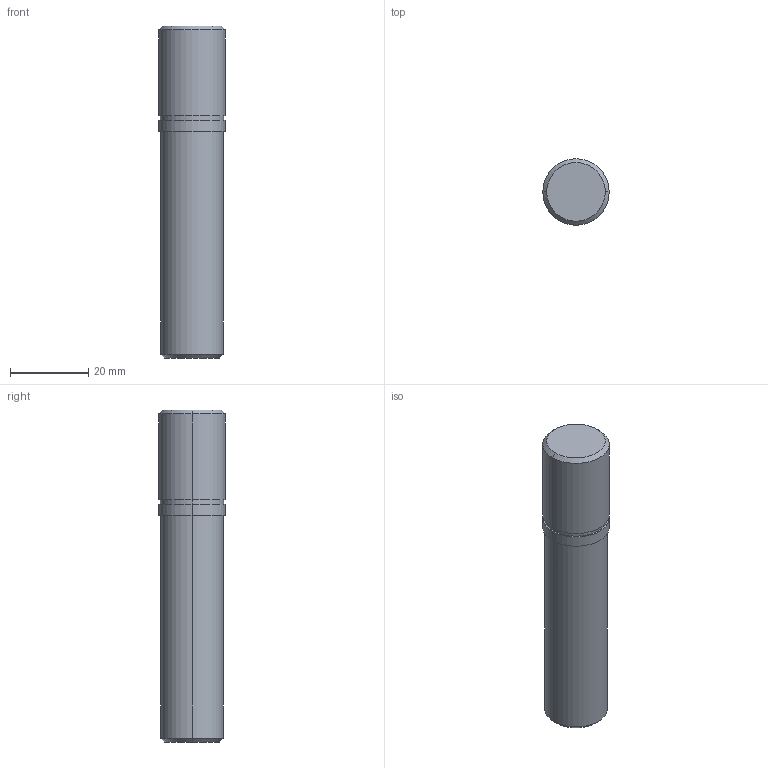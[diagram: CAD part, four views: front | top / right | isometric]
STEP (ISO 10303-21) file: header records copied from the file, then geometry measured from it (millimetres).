
FILE_DESCRIPTION (( 'STEP AP203' ), '1' );
FILE_NAME ('084.811.004.STEP', '2013-01-29T12:59:05', ( 'Alusic' ), ( 'Alusic' ), 'SwSTEP 2.0', 'SolidWorks 2011', '' );
FILE_SCHEMA (( 'CONFIG_CONTROL_DESIGN' ));
Length unit declared in the file: millimetre
Products named in the file (1): 084.811.004
Bounding box: 17 x 17 x 85 mm (x, y, z)
Volume: 17717.4 mm3; surface area: 4787 mm2
Topology: 1 solids, 1 shells, 17 faces, 32 edges, 20 vertices
Faces by surface type: cylinder 8, plane 5, cone 4
Entity records: 511 total; most frequent: DIRECTION 88, CARTESIAN_POINT 70, ORIENTED_EDGE 64, AXIS2_PLACEMENT_3D 38, EDGE_CURVE 32, EDGE_LOOP 20, VERTEX_POINT 20, CIRCLE 20
